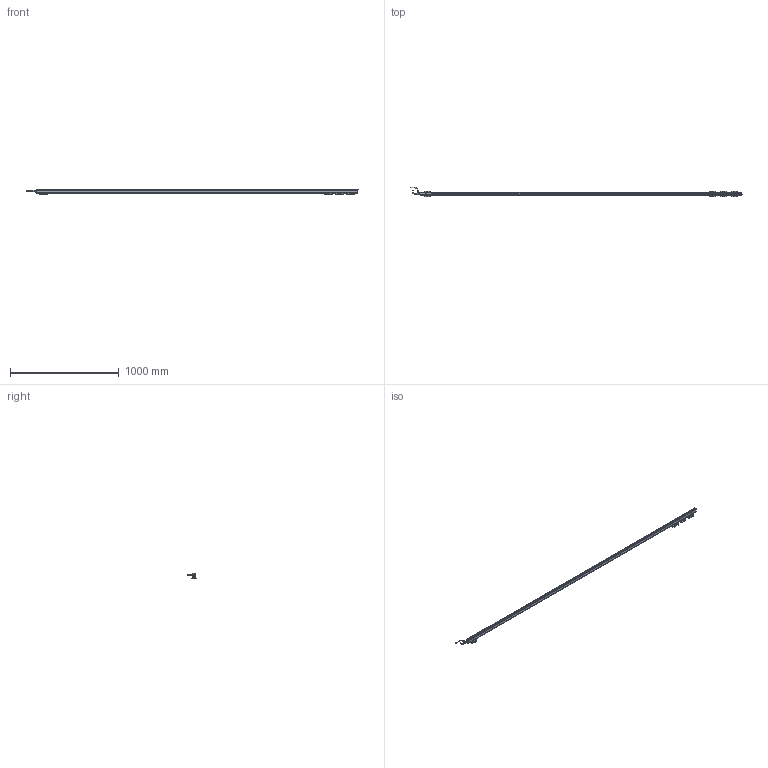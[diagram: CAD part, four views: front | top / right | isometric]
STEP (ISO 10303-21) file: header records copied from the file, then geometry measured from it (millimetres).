
FILE_DESCRIPTION(('Bauteilbeschreibung','HiCAD-Model','HiCAD-STEP-TRANSLATION','Bauteilbeschreibung'),'2;1');
FILE_NAME('PERFORMAXEASY_2790_3D.STP','2014-06-03T10:46:04+00:00',('Konstrukteur'),('Konstrukteur Firma GmbH'),' HiCAD 2011, Step 1600.0 ','HiCAD 2011','confidential');
FILE_SCHEMA(('AUTOMOTIVE_DESIGN { 1 2 10303 214 0 1 1 1 }'));
Products named in the file (44): PERFORMAXEASY_2790_3D; A_PERFORMAX EASY 2790_2970; A_END CAP; A0END0CAP; A_PIN; A0PIN; A_PROFILE; A_POTTING; A_LED; A519020315_CONNECTOR APPLIANCE; A_INSERT; A_CONTACTS; A_HOUSING; A_CONNECTOR STRAIGHT; EXTRUDED SOLID_0; DRAAD GEBOGEN; REVOLVED SOLID_1; REVOLVED SOLID_3; A_CONNECTOR ANGLED; REVOLVED0SOLID01; EXTRUDED0SOLID00; C_EDGE SWEEP_0; REVOLVED SOLID_2; REVOLVED0SOLID03; A532000100_MOUNTING BRACKET BA; A_SIDE PIECE; A0SIDE0PIECE; A_SLIDE PIECE; A_BRACKET SMALL; A5320001000MOUNTING0BRACKET0BA; A0SIDE0PIECE0; A0SIDE0PIECE1; A0SLIDE0PIECE; A0BRACKET0SMALL; A5320001000MOUNTING0BRACKET0BA0; A0SIDE0PIECE2; A0SIDE0PIECE3; A0SLIDE0PIECE0; A0BRACKET0SMALL0; A0SIDE0PIECE4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
Assembly tree (43 placements, depth 4):
  PERFORMAXEASY_2790_3D
    A_PERFORMAX EASY 2790_2970
      A_END CAP
      A0END0CAP
      A_PIN
      A0PIN
      A_PROFILE
      A_POTTING
      A_LED
      A519020315_CONNECTOR APPLIANCE
        A_INSERT
        A_CONTACTS
        A_HOUSING
      A_CONNECTOR STRAIGHT
        EXTRUDED SOLID_0
        DRAAD GEBOGEN
        REVOLVED SOLID_1
        REVOLVED SOLID_3
      A_CONNECTOR ANGLED
        REVOLVED0SOLID01
        EXTRUDED0SOLID00
        C_EDGE SWEEP_0
        REVOLVED SOLID_2
        REVOLVED0SOLID03
      A532000100_MOUNTING BRACKET BA
        A_SIDE PIECE
        A0SIDE0PIECE
        A_SLIDE PIECE
        A_BRACKET SMALL
      A5320001000MOUNTING0BRACKET0BA
        A0SIDE0PIECE0
        A0SIDE0PIECE1
        A0SLIDE0PIECE
        A0BRACKET0SMALL
      A5320001000MOUNTING0BRACKET0BA0
        A0SIDE0PIECE2
        A0SIDE0PIECE3
        A0SLIDE0PIECE0
        A0BRACKET0SMALL0
      A5320001000MOUNTING0BRACKET0BA0
        A0SIDE0PIECE4
        A0SIDE0PIECE5
        A0SLIDE0PIECE1
        A0BRACKET0SMALL1
Bounding box: 3048.57 x 84.23 x 52.3 mm (x, y, z)
Volume: 2123203.5 mm3; surface area: 661474.6 mm2
Topology: 40 solids, 52 shells, 2845 faces, 7146 edges, 4246 vertices
Faces by surface type: cylinder 1250, plane 1091, torus 188, sphere 156, bspline 128, cone 32
Full cylindrical faces by diameter (mm): 0.8 x10, 1 x5, 1.48 x2, 2.661 x1, 3 x16, 4.2 x2, 5 x4, 5.5 x20, 8 x2, 8.2 x1, 8.4 x2, 8.945 x1, 9 x2, 10.2 x1, 10.5 x3, 11 x1, 12 x3, 12.8 x1, 13.8 x4, 14.5 x3
Entity records: 128719 total; most frequent: CARTESIAN_POINT 29178, DIRECTION 14166, ORIENTED_EDGE 13550, EDGE_CURVE 6775, COLOUR_RGB 6450, PRESENTATION_STYLE_ASSIGNMENT 6450, OVER_RIDING_STYLED_ITEM 6415, CURVE_STYLE 6399
